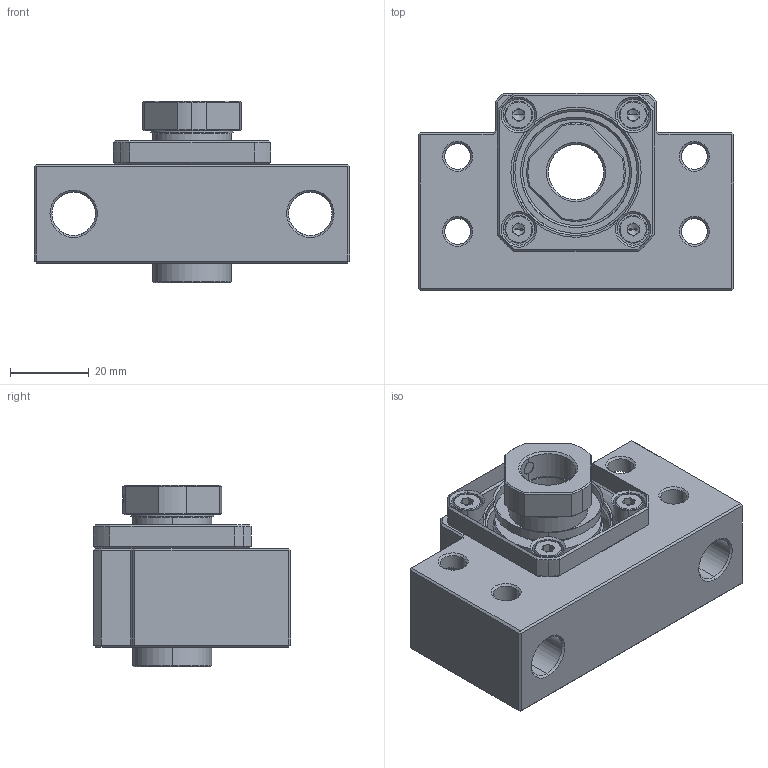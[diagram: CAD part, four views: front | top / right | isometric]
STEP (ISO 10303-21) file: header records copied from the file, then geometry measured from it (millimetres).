
FILE_DESCRIPTION (( 'STEP AP203' ), '1' );
FILE_NAME ('ASGK-15_203.STEP', '2013-02-27T23:48:23', ( '' ), ( '' ), 'SwSTEP 2.0', 'SolidWorks 2012', '' );
FILE_SCHEMA (( 'CONFIG_CONTROL_DESIGN' ));
Length unit declared in the file: millimetre
Products named in the file (1): ASGK-15_203
Bounding box: 80 x 50 x 46 mm (x, y, z)
Volume: 81390.5 mm3; surface area: 25440.2 mm2
Topology: 1 solids, 16 shells, 445 faces, 1005 edges, 579 vertices
Faces by surface type: plane 170, cylinder 123, cone 112, torus 40
Entity records: 12854 total; most frequent: CARTESIAN_POINT 2741, DIRECTION 2239, ORIENTED_EDGE 1974, EDGE_CURVE 987, AXIS2_PLACEMENT_3D 877, VERTEX_POINT 579, EDGE_LOOP 492, VECTOR 485
